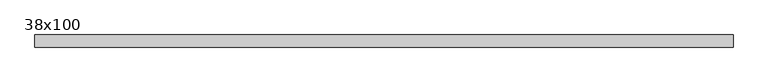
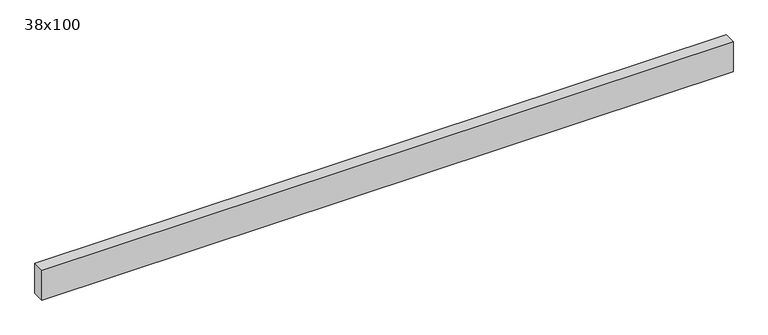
"""IFC4 building model written with IfcOpenShell, lengths in millimetres: beam geometry, Poutre - Bois de construction de dimensions courantes : 38x100."""

import ifcopenshell
import ifcopenshell.guid

model = None  # the IFC model being written
_history = None  # IfcOwnerHistory: only IFC2X3 demands one
_inside = {}  # id of a spatial element -> (the spatial element, [elements in it])
_under = {}  # id of a project, library or spatial element -> (it, [spatial elements below it])
_declared = {}  # id of a project -> (the project, [libraries it declares])
_typed = {}  # id of a type object -> (the type object, [elements of that type])
_made_of = {}  # id of a material, layer set ... -> (it, [elements and type objects made of it])


def new_model(schema):
    """Start an empty IFC model of exactly this schema.

    Asked for "IFC4X3", IfcOpenShell would pick the latest addendum, in which some entities
    have other attributes; the version numbers below select the first issue.
    IFC2X3 requires an IfcOwnerHistory on every rooted entity: one is made here for all.
    """
    global model, _history
    if schema == "IFC4X3":
        model = ifcopenshell.file(schema_version=(4, 3, 0, 0))
    else:
        model = ifcopenshell.file(schema=schema)
    _inside.clear()
    _under.clear()
    _declared.clear()
    _typed.clear()
    _made_of.clear()
    _history = None
    if model.schema == "IFC2X3":
        org = make("IfcOrganization", Name="unknown")
        user = make(
            "IfcPersonAndOrganization",
            ThePerson=make("IfcPerson", FamilyName="unknown"),
            TheOrganization=org,
        )
        app = make(
            "IfcApplication",
            ApplicationDeveloper=org,
            Version="unknown",
            ApplicationFullName="unknown",
            ApplicationIdentifier="unknown",
        )
        _history = make(
            "IfcOwnerHistory",
            OwningUser=user,
            OwningApplication=app,
            ChangeAction="ADDED",
            CreationDate=0,
        )
    return model


def make(cls, **values):
    """One entity of the class cls with the attributes given. An attribute that is None is left unset."""
    return model.create_entity(
        cls, **{name: value for name, value in values.items() if value is not None}
    )


def rooted(cls, **values):
    """An entity with a GlobalId (a new one), such as an element, a storey or a relation."""
    return make(cls, GlobalId=ifcopenshell.guid.new(), OwnerHistory=_history, **values)


def si_unit(unit_type, name, prefix=None):
    """IfcSIUnit, for example si_unit("LENGTHUNIT", "METRE", prefix="MILLI")."""
    return make("IfcSIUnit", UnitType=unit_type, Prefix=prefix, Name=name)


def assignment(units):
    """IfcUnitAssignment: the units of a project."""
    return None if units is None else make("IfcUnitAssignment", Units=units)


def point(xyz):
    """IfcCartesianPoint."""
    return None if xyz is None else make("IfcCartesianPoint", Coordinates=xyz)


def direction(xyz):
    """IfcDirection."""
    return None if xyz is None else make("IfcDirection", DirectionRatios=xyz)


def frame(location, z_axis=None, x_axis=None):
    """IfcAxis2Placement3D, a coordinate frame: its origin and axes. An axis left out is left unset."""
    return make(
        "IfcAxis2Placement3D",
        Location=point(location),
        Axis=direction(z_axis),
        RefDirection=direction(x_axis),
    )


def origin():
    """The frame at (0, 0, 0) with its axes left unset."""
    return frame((0.0, 0.0, 0.0))


def place(relative_to, where):
    """IfcLocalPlacement: puts the frame where relative to a parent placement (None: the world)."""
    return make(
        "IfcLocalPlacement", PlacementRelTo=relative_to, RelativePlacement=where
    )


def context(
    kind, dimensions, precision=None, world=None, true_north=None, identifier=None
):
    """IfcGeometricRepresentationContext, for example the 3D "Model" context."""
    return make(
        "IfcGeometricRepresentationContext",
        ContextIdentifier=identifier,
        ContextType=kind,
        CoordinateSpaceDimension=dimensions,
        Precision=precision,
        WorldCoordinateSystem=world,
        TrueNorth=true_north,
    )


def project(units=None, contexts=None):
    """IfcProject with its units and contexts."""
    return rooted(
        "IfcProject",
        Name="project",
        RepresentationContexts=contexts,
        UnitsInContext=assignment(units),
    )


def spatial(cls, under=None, at=None, **own):
    """A site, building, storey or space (cls), placed at a placement, below another one or the project."""
    s = rooted(cls, ObjectPlacement=at, **own)
    if under is not None:
        _under.setdefault(under.id(), (under, []))[1].append(s)
    return s


def polyline(points):
    """IfcPolyline through the points."""
    return make("IfcPolyline", Points=[point(p) for p in points])


def outline(outer, holes=None, kind="AREA"):
    """IfcArbitraryClosedProfileDef: a profile drawn as a closed curve; with holes, ...WithVoids."""
    if holes is None:
        return make("IfcArbitraryClosedProfileDef", ProfileType=kind, OuterCurve=outer)
    return make(
        "IfcArbitraryProfileDefWithVoids",
        ProfileType=kind,
        OuterCurve=outer,
        InnerCurves=holes,
    )


def extrude(swept, where, along, depth):
    """IfcExtrudedAreaSolid: the profile swept, set in the frame where, extruded along a direction by depth."""
    return make(
        "IfcExtrudedAreaSolid",
        SweptArea=swept,
        Position=where,
        ExtrudedDirection=direction(along),
        Depth=depth,
    )


def shape(context_of_items, identifier, shape_type, items):
    """IfcShapeRepresentation: the items that make up one representation, for example the "Body"."""
    return make(
        "IfcShapeRepresentation",
        ContextOfItems=context_of_items,
        RepresentationIdentifier=identifier,
        RepresentationType=shape_type,
        Items=items,
    )


def source(mapping_origin, context_of_items, identifier, shape_type, items):
    """IfcRepresentationMap: a shape defined once, which mapped items show again and again."""
    return make(
        "IfcRepresentationMap",
        MappingOrigin=mapping_origin,
        MappedRepresentation=shape(context_of_items, identifier, shape_type, items),
    )


def transform(
    local_origin,
    x_axis=None,
    y_axis=None,
    z_axis=None,
    scale=None,
    scale2=None,
    scale3=None,
    uniform=True,
):
    """IfcCartesianTransformationOperator3D, or its non-uniform kind. x_axis, y_axis, z_axis: its Axis1, 2, 3."""
    if uniform:
        return make(
            "IfcCartesianTransformationOperator3D",
            Axis1=direction(x_axis),
            Axis2=direction(y_axis),
            LocalOrigin=point(local_origin),
            Scale=scale,
            Axis3=direction(z_axis),
        )
    return make(
        "IfcCartesianTransformationOperator3DnonUniform",
        Axis1=direction(x_axis),
        Axis2=direction(y_axis),
        LocalOrigin=point(local_origin),
        Scale=scale,
        Axis3=direction(z_axis),
        Scale2=scale2,
        Scale3=scale3,
    )


def mapped(mapping_source, mapping_target):
    """IfcMappedItem: shows the shape of a source again, moved by a transform."""
    return make(
        "IfcMappedItem", MappingSource=mapping_source, MappingTarget=mapping_target
    )


def made_of(thing, what):
    """Note that an element or type object is made of a material, layer set ...; save() writes the relation."""
    if what is not None:
        _made_of.setdefault(what.id(), (what, []))[1].append(thing)
    return thing


def element(
    cls,
    number,
    at=None,
    inside=None,
    cuts=None,
    type_object=None,
    material=None,
    context=None,
    identifier="Body",
    shape_type=None,
    held_by="IfcProductDefinitionShape",
    body=None,
    shapes=None,
    **own,
):
    """One element of the class cls, such as IfcWall. Its Tag is "e" and its number.

    at: its placement. inside: the storey or other place that contains it. cuts: it is an
    opening in that element (IfcRelVoidsElement). A single representation is given by context,
    identifier, shape_type and body (its items); several are given by shapes. held_by: the class
    of the entity that holds the representations. save() writes the other relations.
    """
    e = rooted(cls, Tag="e%d" % number, ObjectPlacement=at, **own)
    if body is not None:
        shapes = [shape(context, identifier, shape_type, body)]
    if shapes is not None:
        e.Representation = make(held_by, Representations=shapes)
    if inside is not None:
        _inside.setdefault(inside.id(), (inside, []))[1].append(e)
    if cuts is not None:
        rooted(
            "IfcRelVoidsElement", RelatingBuildingElement=cuts, RelatedOpeningElement=e
        )
    if type_object is not None:
        _typed.setdefault(type_object.id(), (type_object, []))[1].append(e)
    return made_of(e, material)


def aggregate(whole, parts):
    """IfcRelAggregates: a whole, such as a stair, and the parts it consists of."""
    return rooted("IfcRelAggregates", RelatingObject=whole, RelatedObjects=parts)


def save(model, path):
    """Write the relations noted so far, then the file.

    IfcRelAggregates (storeys below a building ...), IfcRelContainedInSpatialStructure (elements
    in a storey), IfcRelDefinesByType, IfcRelAssociatesMaterial and IfcRelDeclares: one each for
    every whole, place, type object, material and project.
    """
    for whole, parts in _under.values():
        aggregate(whole, parts)
    for where, things in _inside.values():
        rooted(
            "IfcRelContainedInSpatialStructure",
            RelatedElements=things,
            RelatingStructure=where,
        )
    for kind, things in _typed.values():
        rooted("IfcRelDefinesByType", RelatedObjects=things, RelatingType=kind)
    for what, things in _made_of.values():
        rooted("IfcRelAssociatesMaterial", RelatedObjects=things, RelatingMaterial=what)
    for by, libraries in _declared.values():
        rooted("IfcRelDeclares", RelatingContext=by, RelatedDefinitions=libraries)
    model.write(path)


def beam_38x100_cbc70dd0(model_context):
    return source(origin(), model_context, "Body", "SweptSolid", [
        extrude(outline(polyline([(1015.0, 19.05), (1015.0, -19.05), (-1175.0, -19.05), (-1175.0, 19.05), (1015.0, 19.05)])), frame((0.0, 0.0, -50.0), z_axis=(0.0, 0.0, 1.0), x_axis=(1.0, 0.0, 0.0)), (0.0, 0.0, 1.0), 100.0),
    ])


if __name__ == "__main__":
    model = new_model("IFC4")
    model_context = context("Model", 3, world=origin())
    ifc_project = project(units=[si_unit("LENGTHUNIT", "METRE", prefix="MILLI")], contexts=[model_context])
    site = spatial("IfcSite", under=ifc_project)
    building = spatial("IfcBuilding", under=site)
    placement = place(None, origin())
    beam_38x100_shape = beam_38x100_cbc70dd0(model_context)
    element("IfcBeam", 1, ObjectType="Poutre - Bois de construction de dimensions courantes : 38x100", at=placement, inside=building, context=model_context, shape_type="MappedRepresentation", body=[
        mapped(beam_38x100_shape, transform((0.0, 0.0, 0.0), x_axis=(1.0, 0.0, 0.0), y_axis=(0.0, 1.0, 0.0), z_axis=(0.0, 0.0, 1.0))),
    ])
    save(model, "model.ifc")
